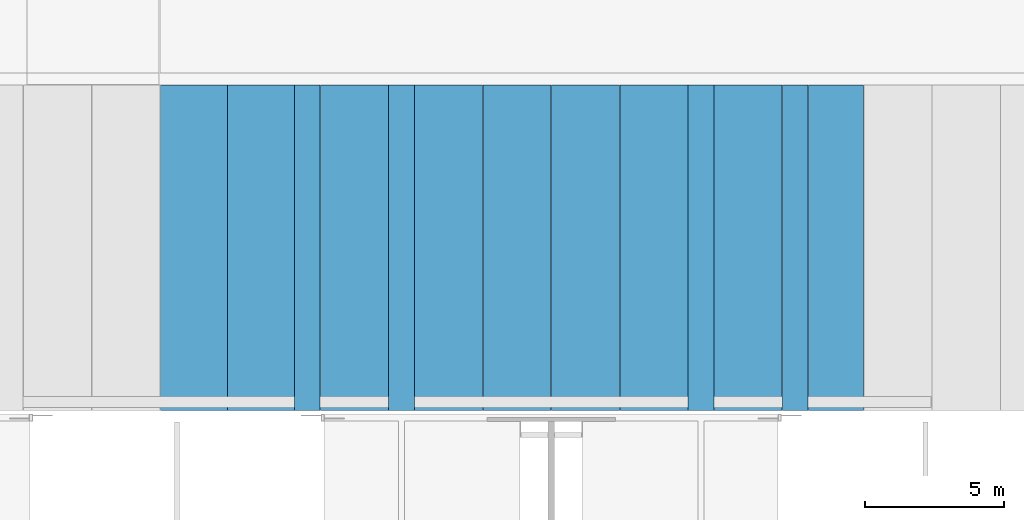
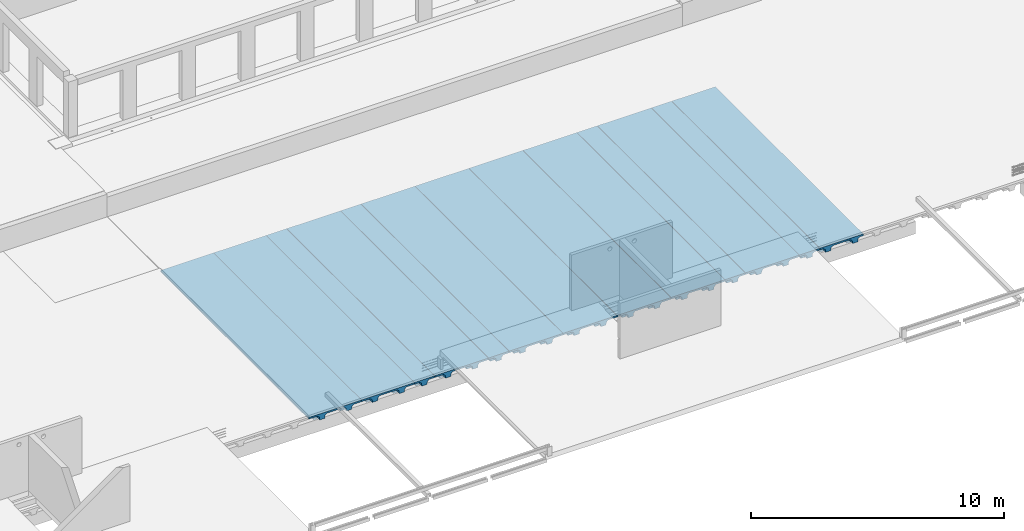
# One storey, part 27 of 36: 13 beams.
"""IFC2X3 building model written with IfcOpenShell, lengths in millimetres."""

from ifc_helpers import new_model, entity, si_unit, converted_unit, derived_unit, direction, frame, origin, place, context, subcontext, project, spatial, faceted_brep, material, type_object, element, save


model = new_model("IFC2X3")

# Units and contexts
model_context = context("Model", 3, precision=0.01, world=origin(), true_north=direction((6.12303176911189e-17, 1.0)))
body_context = subcontext(model_context, "Body", "Model", "MODEL_VIEW")
ifc_project = project(units=[si_unit("LENGTHUNIT", "METRE", prefix="MILLI"), si_unit("AREAUNIT", "SQUARE_METRE"), si_unit("VOLUMEUNIT", "CUBIC_METRE"), converted_unit("PLANEANGLEUNIT", "DEGREE", entity("IfcRatioMeasure", 0.0174532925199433), si_unit("PLANEANGLEUNIT", "RADIAN"), dimensions=[0, 0, 0, 0, 0, 0, 0]), si_unit("MASSUNIT", "GRAM", prefix="KILO"), derived_unit("MASSDENSITYUNIT", [(si_unit("MASSUNIT", "GRAM", prefix="KILO"), 1), (si_unit("LENGTHUNIT", "METRE"), -3)]), si_unit("TIMEUNIT", "SECOND"), si_unit("FREQUENCYUNIT", "HERTZ"), si_unit("THERMODYNAMICTEMPERATUREUNIT", "DEGREE_CELSIUS"), derived_unit("THERMALTRANSMITTANCEUNIT", [(si_unit("MASSUNIT", "GRAM", prefix="KILO"), 1), (si_unit("THERMODYNAMICTEMPERATUREUNIT", "KELVIN"), -1), (si_unit("TIMEUNIT", "SECOND"), -3)]), derived_unit("VOLUMETRICFLOWRATEUNIT", [(si_unit("LENGTHUNIT", "METRE"), 3), (si_unit("TIMEUNIT", "SECOND"), -1)]), si_unit("ELECTRICCURRENTUNIT", "AMPERE"), si_unit("ELECTRICVOLTAGEUNIT", "VOLT"), si_unit("POWERUNIT", "WATT"), si_unit("FORCEUNIT", "NEWTON", prefix="KILO"), si_unit("ILLUMINANCEUNIT", "LUX"), si_unit("LUMINOUSFLUXUNIT", "LUMEN"), si_unit("LUMINOUSINTENSITYUNIT", "CANDELA"), derived_unit("USERDEFINED", [(si_unit("MASSUNIT", "GRAM", prefix="KILO"), -1), (si_unit("LENGTHUNIT", "METRE"), -2), (si_unit("TIMEUNIT", "SECOND"), 3), (si_unit("LUMINOUSFLUXUNIT", "LUMEN"), 1)]), derived_unit("LINEARVELOCITYUNIT", [(si_unit("LENGTHUNIT", "METRE"), 1), (si_unit("TIMEUNIT", "SECOND"), -1)]), si_unit("PRESSUREUNIT", "PASCAL"), derived_unit("USERDEFINED", [(si_unit("LENGTHUNIT", "METRE"), -2), (si_unit("MASSUNIT", "GRAM", prefix="KILO"), 1), (si_unit("TIMEUNIT", "SECOND"), -2)])], contexts=[model_context])

# Site, building, storey
site_placement = place(None, origin())
site = spatial("IfcSite", under=ifc_project, at=site_placement, Name="Default", CompositionType="ELEMENT")
building_placement = place(site_placement, origin())
building = spatial("IfcBuilding", under=site, at=building_placement, Name="niet gebruiken", CompositionType="ELEMENT")
storey_placement = place(building_placement, frame((0.0, 0.0, 12600.0)))
storey = spatial("IfcBuildingStorey", under=building, at=storey_placement, Name="04 vierde verdieping", CompositionType="ELEMENT", Elevation=12600.0)

# Beams
ifc_material = material(Name="NLRS_f2_beton prefab")
beam_type_1 = type_object("IfcBeamType", Name="NLRS_28.11_SF_WPB_tt-plaatvloer Holcon 102B_gen:TT-plaat, b=2460", PredefinedType="BEAM")
beam_1_placement = place(storey_placement, frame((46373.2441956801, 8896.0, -1970.0), z_axis=(0.0, 0.0, 1.0), x_axis=(0.0, -1.0, 0.0)))
element("IfcBeam", 1, at=beam_1_placement, inside=storey, type_object=beam_type_1, material=ifc_material, Name="NLRS_28.11_SF_WPB_tt-plaatvloer Holcon 102B_gen:TT-plaat, b=2460", ObjectType="NLRS_28.11_SF_WPB_tt-plaatvloer Holcon 102B_gen:TT-plaat, b=2460", context=body_context, shape_type="Brep", body=[
    faceted_brep([(-11730.0, 0.0, 610.0), (-11730.0, 0.0, 529.999995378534), (0.0, 0.0, 529.999995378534), (0.0, 0.0, 610.0), (-520.0, 733.513622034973, 320.0), (-520.0, 493.468888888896, 320.0), (-520.0, 518.500000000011, 0.0), (-520.0, 708.482510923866, 0.0), (-11480.0, 501.291111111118, 220.0), (-11480.0, 725.691399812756, 220.0), (-11480.0, 708.482510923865, 0.0), (-11480.0, 518.50000000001, 0.0), (-11730.0, 744.000076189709, 454.059783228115), (-11730.0, 819.940288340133, 529.999995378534), (0.0, 819.940288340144, 529.999995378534), (0.0, 744.000076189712, 454.059783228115), (-11730.0, 1971.01904939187, 454.078756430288), (-11730.0, 2046.94028834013, 529.999995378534), (0.0, 2046.94028834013, 529.999995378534), (0.0, 1971.01904939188, 454.078756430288), (-11730.0, 1634.05971165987, 529.999995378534), (-11730.0, 1709.99992381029, 454.059783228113), (0.0, 1709.9999238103, 454.059783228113), (0.0, 1634.05971165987, 529.999995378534), (-11730.0, 2454.0, 610.0), (-11730.0, 2454.0, 529.999995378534), (-11730.0, 1952.70888888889, 220.0), (-11730.0, 1728.30860018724, 220.0), (-11730.0, 725.691399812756, 220.0), (-11730.0, 501.291111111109, 220.0), (-11730.0, 482.980950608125, 454.078756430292), (-11730.0, 407.059711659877, 529.999995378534), (0.0, 407.05971165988, 529.999995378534), (0.0, 482.980950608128, 454.078756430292), (0.0, 493.468888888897, 320.0), (0.0, 733.513622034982, 320.0), (0.0, 1720.48637796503, 320.0), (0.0, 1960.53111111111, 320.0), (0.0, 2454.0, 529.999995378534), (0.0, 2454.0, 610.0), (-520.0, 1935.5, 0.0), (-520.0, 1745.51748907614, 0.0), (-11480.0, 1745.51748907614, 0.0), (-11480.0, 1935.5, 0.0), (-520.0, 1960.53111111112, 320.0), (-11480.0, 1952.70888888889, 220.0), (-11480.0, 1728.30860018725, 220.0), (-520.0, 1720.48637796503, 320.0)], [[[0, 1, 2, 3]], [[4, 5, 6, 7]], [[8, 9, 10, 11]], [[12, 13, 14, 15]], [[16, 17, 18, 19]], [[20, 21, 22, 23]], [[0, 24, 25, 17, 16, 26, 27, 21, 20, 13, 12, 28, 29, 30, 31, 1]], [[3, 2, 32, 33, 34, 35, 15, 14, 23, 22, 36, 37, 19, 18, 38, 39]], [[1, 31, 32, 2]], [[24, 0, 3, 39]], [[25, 24, 39, 38]], [[17, 25, 38, 18]], [[13, 20, 23, 14]], [[40, 41, 42, 43]], [[16, 19, 37, 44, 40, 43, 45, 26]], [[22, 21, 27, 46, 42, 41, 47, 36]], [[12, 15, 35, 4, 7, 10, 9, 28]], [[7, 6, 11, 10]], [[33, 30, 29, 8, 11, 6, 5, 34]], [[5, 4, 35, 34]], [[9, 8, 29, 28]], [[31, 30, 33, 32]], [[46, 45, 43, 42]], [[47, 44, 37, 36]], [[45, 46, 27, 26]], [[44, 47, 41, 40]]]),
])
beam_2_placement = place(storey_placement, frame((42972.7636920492, 8896.0, -1970.0), z_axis=(0.0, 0.0, 1.0), x_axis=(0.0, -1.0, 0.0)))
element("IfcBeam", 2, at=beam_2_placement, inside=storey, type_object=beam_type_1, material=ifc_material, Name="NLRS_28.11_SF_WPB_tt-plaatvloer Holcon 102B_gen:TT-plaat, b=2460", ObjectType="NLRS_28.11_SF_WPB_tt-plaatvloer Holcon 102B_gen:TT-plaat, b=2460", context=body_context, shape_type="Brep", body=[
    faceted_brep([(-11730.0, 0.0, 610.0), (-11730.0, 0.0, 529.999995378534), (0.0, 0.0, 529.999995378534), (0.0, 0.0, 610.0), (-520.0, 733.513622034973, 320.0), (-520.0, 493.468888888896, 320.0), (-520.0, 518.500000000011, 0.0), (-520.0, 708.482510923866, 0.0), (-11480.0, 501.291111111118, 220.0), (-11480.0, 725.691399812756, 220.0), (-11480.0, 708.482510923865, 0.0), (-11480.0, 518.50000000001, 0.0), (-11730.0, 744.000076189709, 454.059783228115), (-11730.0, 819.940288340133, 529.999995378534), (0.0, 819.940288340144, 529.999995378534), (0.0, 744.000076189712, 454.059783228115), (-11730.0, 1971.01904939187, 454.078756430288), (-11730.0, 2046.94028834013, 529.999995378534), (0.0, 2046.94028834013, 529.999995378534), (0.0, 1971.01904939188, 454.078756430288), (-11730.0, 1634.05971165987, 529.999995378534), (-11730.0, 1709.99992381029, 454.059783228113), (0.0, 1709.9999238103, 454.059783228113), (0.0, 1634.05971165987, 529.999995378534), (-11730.0, 2454.0, 610.0), (-11730.0, 2454.0, 529.999995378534), (-11730.0, 1952.70888888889, 220.0), (-11730.0, 1728.30860018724, 220.0), (-11730.0, 725.691399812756, 220.0), (-11730.0, 501.291111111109, 220.0), (-11730.0, 482.980950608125, 454.078756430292), (-11730.0, 407.059711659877, 529.999995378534), (0.0, 407.05971165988, 529.999995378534), (0.0, 482.980950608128, 454.078756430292), (0.0, 493.468888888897, 320.0), (0.0, 733.513622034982, 320.0), (0.0, 1720.48637796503, 320.0), (0.0, 1960.53111111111, 320.0), (0.0, 2454.0, 529.999995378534), (0.0, 2454.0, 610.0), (-520.0, 1935.5, 0.0), (-520.0, 1745.51748907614, 0.0), (-11480.0, 1745.51748907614, 0.0), (-11480.0, 1935.5, 0.0), (-520.0, 1960.53111111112, 320.0), (-11480.0, 1952.70888888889, 220.0), (-11480.0, 1728.30860018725, 220.0), (-520.0, 1720.48637796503, 320.0)], [[[0, 1, 2, 3]], [[4, 5, 6, 7]], [[8, 9, 10, 11]], [[12, 13, 14, 15]], [[16, 17, 18, 19]], [[20, 21, 22, 23]], [[0, 24, 25, 17, 16, 26, 27, 21, 20, 13, 12, 28, 29, 30, 31, 1]], [[3, 2, 32, 33, 34, 35, 15, 14, 23, 22, 36, 37, 19, 18, 38, 39]], [[1, 31, 32, 2]], [[24, 0, 3, 39]], [[25, 24, 39, 38]], [[17, 25, 38, 18]], [[13, 20, 23, 14]], [[40, 41, 42, 43]], [[16, 19, 37, 44, 40, 43, 45, 26]], [[22, 21, 27, 46, 42, 41, 47, 36]], [[12, 15, 35, 4, 7, 10, 9, 28]], [[7, 6, 11, 10]], [[33, 30, 29, 8, 11, 6, 5, 34]], [[5, 4, 35, 34]], [[9, 8, 29, 28]], [[31, 30, 33, 32]], [[44, 47, 41, 40]], [[46, 45, 43, 42]], [[47, 44, 37, 36]], [[45, 46, 27, 26]]]),
])
beam_3_placement = place(storey_placement, frame((40505.4855962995, 8896.0, -1970.0), z_axis=(0.0, 0.0, 1.0), x_axis=(0.0, -1.0, 0.0)))
element("IfcBeam", 3, at=beam_3_placement, inside=storey, type_object=beam_type_1, material=ifc_material, Name="NLRS_28.11_SF_WPB_tt-plaatvloer Holcon 102B_gen:TT-plaat, b=2460", ObjectType="NLRS_28.11_SF_WPB_tt-plaatvloer Holcon 102B_gen:TT-plaat, b=2460", context=body_context, shape_type="Brep", body=[
    faceted_brep([(-11730.0, 0.0, 610.0), (-11730.0, 0.0, 529.999995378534), (0.0, 0.0, 529.999995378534), (0.0, 0.0, 610.0), (-520.0, 733.513622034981, 320.0), (-520.0, 493.468888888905, 320.0), (-520.0, 518.500000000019, 0.0), (-520.0, 708.482510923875, 0.0), (-11480.0, 501.291111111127, 220.0), (-11480.0, 725.691399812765, 220.0), (-11480.0, 708.482510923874, 0.0), (-11480.0, 518.500000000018, 0.0), (-11730.0, 744.000076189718, 454.059783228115), (-11730.0, 819.940288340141, 529.999995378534), (0.0, 819.940288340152, 529.999995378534), (0.0, 744.000076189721, 454.059783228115), (-11730.0, 1971.01904939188, 454.078756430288), (-11730.0, 2046.94028834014, 529.999995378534), (0.0, 2046.94028834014, 529.999995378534), (0.0, 1971.01904939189, 454.078756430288), (-11730.0, 1634.05971165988, 529.999995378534), (-11730.0, 1709.9999238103, 454.059783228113), (0.0, 1709.99992381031, 454.059783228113), (0.0, 1634.05971165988, 529.999995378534), (-11730.0, 2454.0, 610.0), (-11730.0, 2454.0, 529.999995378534), (-11730.0, 1952.7088888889, 220.0), (-11730.0, 1728.30860018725, 220.0), (-11730.0, 725.691399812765, 220.0), (-11730.0, 501.291111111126, 220.0), (-11730.0, 482.980950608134, 454.078756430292), (-11730.0, 407.059711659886, 529.999995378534), (0.0, 407.059711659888, 529.999995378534), (0.0, 482.980950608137, 454.078756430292), (0.0, 493.468888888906, 320.0), (0.0, 733.513622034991, 320.0), (0.0, 1720.48637796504, 320.0), (0.0, 1960.53111111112, 320.0), (0.0, 2454.0, 529.999995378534), (0.0, 2454.0, 610.0), (-520.0, 1935.50000000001, 0.0), (-520.0, 1745.51748907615, 0.0), (-11480.0, 1745.51748907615, 0.0), (-11480.0, 1935.50000000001, 0.0), (-520.0, 1960.53111111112, 320.0), (-11480.0, 1952.7088888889, 220.0), (-11480.0, 1728.30860018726, 220.0), (-520.0, 1720.48637796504, 320.0)], [[[0, 1, 2, 3]], [[4, 5, 6, 7]], [[8, 9, 10, 11]], [[12, 13, 14, 15]], [[16, 17, 18, 19]], [[20, 21, 22, 23]], [[0, 24, 25, 17, 16, 26, 27, 21, 20, 13, 12, 28, 29, 30, 31, 1]], [[3, 2, 32, 33, 34, 35, 15, 14, 23, 22, 36, 37, 19, 18, 38, 39]], [[1, 31, 32, 2]], [[24, 0, 3, 39]], [[25, 24, 39, 38]], [[17, 25, 38, 18]], [[13, 20, 23, 14]], [[40, 41, 42, 43]], [[16, 19, 37, 44, 40, 43, 45, 26]], [[22, 21, 27, 46, 42, 41, 47, 36]], [[12, 15, 35, 4, 7, 10, 9, 28]], [[7, 6, 11, 10]], [[33, 30, 29, 8, 11, 6, 5, 34]], [[5, 4, 35, 34]], [[9, 8, 29, 28]], [[31, 30, 33, 32]], [[45, 46, 27, 26]], [[47, 44, 37, 36]], [[46, 45, 43, 42]], [[44, 47, 41, 40]]]),
])
beam_4_placement = place(storey_placement, frame((38039.6976948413, 8896.0, -1970.0), z_axis=(0.0, 0.0, 1.0), x_axis=(0.0, -1.0, 0.0)))
element("IfcBeam", 4, at=beam_4_placement, inside=storey, type_object=beam_type_1, material=ifc_material, Name="NLRS_28.11_SF_WPB_tt-plaatvloer Holcon 102B_gen:TT-plaat, b=2460", ObjectType="NLRS_28.11_SF_WPB_tt-plaatvloer Holcon 102B_gen:TT-plaat, b=2460", context=body_context, shape_type="Brep", body=[
    faceted_brep([(-11730.0, 0.0, 610.0), (-11730.0, 0.0, 529.999995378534), (0.0, 0.0, 529.999995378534), (0.0, 0.0, 610.0), (-520.0, 733.513622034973, 320.0), (-520.0, 493.468888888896, 320.0), (-520.0, 518.500000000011, 0.0), (-520.0, 708.482510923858, 0.0), (-11480.0, 501.29111111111, 220.0), (-11480.0, 725.691399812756, 220.0), (-11480.0, 708.482510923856, 0.0), (-11480.0, 518.50000000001, 0.0), (-11730.0, 744.000076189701, 454.059783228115), (-11730.0, 819.940288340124, 529.999995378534), (0.0, 819.940288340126, 529.999995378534), (0.0, 744.000076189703, 454.059783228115), (-11730.0, 1971.01904939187, 454.078756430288), (-11730.0, 2046.94028834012, 529.999995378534), (0.0, 2046.94028834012, 529.999995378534), (0.0, 1971.01904939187, 454.078756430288), (-11730.0, 1634.05971165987, 529.999995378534), (-11730.0, 1709.99992381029, 454.059783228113), (0.0, 1709.99992381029, 454.059783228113), (0.0, 1634.05971165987, 529.999995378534), (-11730.0, 2454.0, 610.0), (-11730.0, 2454.0, 529.999995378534), (-11730.0, 1952.70888888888, 220.0), (-11730.0, 1728.30860018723, 220.0), (-11730.0, 725.691399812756, 220.0), (-11730.0, 501.291111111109, 220.0), (-11730.0, 482.980950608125, 454.078756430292), (-11730.0, 407.059711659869, 529.999995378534), (0.0, 407.059711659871, 529.999995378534), (0.0, 482.980950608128, 454.078756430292), (0.0, 493.468888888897, 320.0), (0.0, 733.513622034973, 320.0), (0.0, 1720.48637796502, 320.0), (0.0, 1960.5311111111, 320.0), (0.0, 2454.0, 529.999995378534), (0.0, 2454.0, 610.0), (-520.0, 1935.5, 0.0), (-520.0, 1745.51748907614, 0.0), (-11480.0, 1745.51748907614, 0.0), (-11480.0, 1935.5, 0.0), (-520.0, 1960.53111111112, 320.0), (-11480.0, 1952.70888888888, 220.0), (-11480.0, 1728.30860018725, 220.0), (-520.0, 1720.48637796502, 320.0)], [[[0, 1, 2, 3]], [[4, 5, 6, 7]], [[8, 9, 10, 11]], [[12, 13, 14, 15]], [[16, 17, 18, 19]], [[20, 21, 22, 23]], [[0, 24, 25, 17, 16, 26, 27, 21, 20, 13, 12, 28, 29, 30, 31, 1]], [[3, 2, 32, 33, 34, 35, 15, 14, 23, 22, 36, 37, 19, 18, 38, 39]], [[1, 31, 32, 2]], [[24, 0, 3, 39]], [[25, 24, 39, 38]], [[17, 25, 38, 18]], [[13, 20, 23, 14]], [[40, 41, 42, 43]], [[16, 19, 37, 44, 40, 43, 45, 26]], [[22, 21, 27, 46, 42, 41, 47, 36]], [[12, 15, 35, 4, 7, 10, 9, 28]], [[7, 6, 11, 10]], [[33, 30, 29, 8, 11, 6, 5, 34]], [[5, 4, 35, 34]], [[9, 8, 29, 28]], [[31, 30, 33, 32]], [[45, 46, 27, 26]], [[44, 47, 41, 40]], [[46, 45, 43, 42]], [[47, 44, 37, 36]]]),
])
beam_5_placement = place(storey_placement, frame((35573.2622926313, 8896.0, -1970.0), z_axis=(0.0, 0.0, 1.0), x_axis=(0.0, -1.0, 0.0)))
element("IfcBeam", 5, at=beam_5_placement, inside=storey, type_object=beam_type_1, material=ifc_material, Name="NLRS_28.11_SF_WPB_tt-plaatvloer Holcon 102B_gen:TT-plaat, b=2460", ObjectType="NLRS_28.11_SF_WPB_tt-plaatvloer Holcon 102B_gen:TT-plaat, b=2460", context=body_context, shape_type="Brep", body=[
    faceted_brep([(-11730.0, 0.0, 610.0), (-11730.0, 0.0, 529.999995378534), (0.0, 0.0, 529.999995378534), (0.0, 0.0, 610.0), (-520.0, 733.513622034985, 320.0), (-520.0, 493.468888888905, 320.0), (-520.0, 518.500000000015, 0.0), (-520.0, 708.482510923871, 0.0), (-11480.0, 501.291111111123, 220.0), (-11480.0, 725.691399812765, 220.0), (-11480.0, 708.482510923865, 0.0), (-11480.0, 518.500000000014, 0.0), (-11730.0, 744.000076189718, 454.059783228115), (-11730.0, 819.940288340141, 529.999995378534), (0.0, 819.940288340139, 529.999995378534), (0.0, 744.000076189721, 454.059783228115), (-11730.0, 1971.01904939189, 454.078756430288), (-11730.0, 2046.94028834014, 529.999995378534), (0.0, 2046.94028834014, 529.999995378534), (0.0, 1971.01904939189, 454.078756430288), (-11730.0, 1634.05971165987, 529.999995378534), (-11730.0, 1709.9999238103, 454.059783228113), (0.0, 1709.9999238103, 454.059783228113), (0.0, 1634.05971165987, 529.999995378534), (-11730.0, 2454.0, 610.0), (-11730.0, 2454.0, 529.999995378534), (-11730.0, 1952.7088888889, 220.0), (-11730.0, 1728.30860018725, 220.0), (-11730.0, 725.691399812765, 220.0), (-11730.0, 501.291111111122, 220.0), (-11730.0, 482.980950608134, 454.078756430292), (-11730.0, 407.059711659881, 529.999995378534), (0.0, 407.059711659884, 529.999995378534), (0.0, 482.980950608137, 454.078756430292), (0.0, 493.468888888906, 320.0), (0.0, 733.513622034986, 320.0), (0.0, 1720.48637796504, 320.0), (0.0, 1960.53111111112, 320.0), (0.0, 2454.0, 529.999995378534), (0.0, 2454.0, 610.0), (-520.0, 1935.5, 0.0), (-520.0, 1745.51748907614, 0.0), (-11480.0, 1745.51748907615, 0.0), (-11480.0, 1935.5, 0.0), (-520.0, 1960.53111111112, 320.0), (-11480.0, 1952.7088888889, 220.0), (-11480.0, 1728.30860018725, 220.0), (-520.0, 1720.48637796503, 320.0)], [[[0, 1, 2, 3]], [[4, 5, 6, 7]], [[8, 9, 10, 11]], [[12, 13, 14, 15]], [[16, 17, 18, 19]], [[20, 21, 22, 23]], [[0, 24, 25, 17, 16, 26, 27, 21, 20, 13, 12, 28, 29, 30, 31, 1]], [[3, 2, 32, 33, 34, 35, 15, 14, 23, 22, 36, 37, 19, 18, 38, 39]], [[1, 31, 32, 2]], [[24, 0, 3, 39]], [[25, 24, 39, 38]], [[17, 25, 38, 18]], [[13, 20, 23, 14]], [[40, 41, 42, 43]], [[16, 19, 37, 44, 40, 43, 45, 26]], [[22, 21, 27, 46, 42, 41, 47, 36]], [[12, 15, 35, 4, 7, 10, 9, 28]], [[7, 6, 11, 10]], [[33, 30, 29, 8, 11, 6, 5, 34]], [[5, 4, 35, 34]], [[9, 8, 29, 28]], [[31, 30, 33, 32]], [[44, 47, 41, 40]], [[46, 45, 43, 42]], [[47, 44, 37, 36]], [[45, 46, 27, 26]]]),
])
beam_6_placement = place(storey_placement, frame((32172.7964216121, 8896.0, -1970.0), z_axis=(0.0, 0.0, 1.0), x_axis=(0.0, -1.0, 0.0)))
element("IfcBeam", 6, at=beam_6_placement, inside=storey, type_object=beam_type_1, material=ifc_material, Name="NLRS_28.11_SF_WPB_tt-plaatvloer Holcon 102B_gen:TT-plaat, b=2460", ObjectType="NLRS_28.11_SF_WPB_tt-plaatvloer Holcon 102B_gen:TT-plaat, b=2460", context=body_context, shape_type="Brep", body=[
    faceted_brep([(-11730.0, 0.0, 610.0), (-11730.0, 0.0, 529.999995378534), (0.0, 0.0, 529.999995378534), (0.0, 0.0, 610.0), (-520.0, 733.513622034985, 320.0), (-520.0, 493.468888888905, 320.0), (-520.0, 518.500000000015, 0.0), (-520.0, 708.482510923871, 0.0), (-11480.0, 501.291111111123, 220.0), (-11480.0, 725.691399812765, 220.0), (-11480.0, 708.482510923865, 0.0), (-11480.0, 518.500000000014, 0.0), (-11730.0, 744.000076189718, 454.059783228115), (-11730.0, 819.940288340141, 529.999995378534), (0.0, 819.940288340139, 529.999995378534), (0.0, 744.000076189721, 454.059783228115), (-11730.0, 1971.01904939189, 454.078756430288), (-11730.0, 2046.94028834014, 529.999995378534), (0.0, 2046.94028834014, 529.999995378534), (0.0, 1971.01904939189, 454.078756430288), (-11730.0, 1634.05971165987, 529.999995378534), (-11730.0, 1709.9999238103, 454.059783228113), (0.0, 1709.9999238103, 454.059783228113), (0.0, 1634.05971165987, 529.999995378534), (-11730.0, 2454.0, 610.0), (-11730.0, 2454.0, 529.999995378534), (-11730.0, 1952.7088888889, 220.0), (-11730.0, 1728.30860018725, 220.0), (-11730.0, 725.691399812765, 220.0), (-11730.0, 501.291111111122, 220.0), (-11730.0, 482.980950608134, 454.078756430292), (-11730.0, 407.059711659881, 529.999995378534), (0.0, 407.059711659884, 529.999995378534), (0.0, 482.980950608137, 454.078756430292), (0.0, 493.468888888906, 320.0), (0.0, 733.513622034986, 320.0), (0.0, 1720.48637796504, 320.0), (0.0, 1960.53111111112, 320.0), (0.0, 2454.0, 529.999995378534), (0.0, 2454.0, 610.0), (-520.0, 1935.5, 0.0), (-520.0, 1745.51748907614, 0.0), (-11480.0, 1745.51748907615, 0.0), (-11480.0, 1935.5, 0.0), (-520.0, 1960.53111111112, 320.0), (-11480.0, 1952.7088888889, 220.0), (-11480.0, 1728.30860018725, 220.0), (-520.0, 1720.48637796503, 320.0)], [[[0, 1, 2, 3]], [[4, 5, 6, 7]], [[8, 9, 10, 11]], [[12, 13, 14, 15]], [[16, 17, 18, 19]], [[20, 21, 22, 23]], [[0, 24, 25, 17, 16, 26, 27, 21, 20, 13, 12, 28, 29, 30, 31, 1]], [[3, 2, 32, 33, 34, 35, 15, 14, 23, 22, 36, 37, 19, 18, 38, 39]], [[1, 31, 32, 2]], [[24, 0, 3, 39]], [[25, 24, 39, 38]], [[17, 25, 38, 18]], [[13, 20, 23, 14]], [[40, 41, 42, 43]], [[16, 19, 37, 44, 40, 43, 45, 26]], [[22, 21, 27, 46, 42, 41, 47, 36]], [[12, 15, 35, 4, 7, 10, 9, 28]], [[7, 6, 11, 10]], [[33, 30, 29, 8, 11, 6, 5, 34]], [[5, 4, 35, 34]], [[9, 8, 29, 28]], [[31, 30, 33, 32]], [[44, 47, 41, 40]], [[46, 45, 43, 42]], [[47, 44, 37, 36]], [[45, 46, 27, 26]]]),
])
beam_7_placement = place(storey_placement, frame((28827.0045614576, 8896.0, -1970.0), z_axis=(0.0, 0.0, 1.0), x_axis=(0.0, -1.0, 0.0)))
element("IfcBeam", 7, at=beam_7_placement, inside=storey, type_object=beam_type_1, material=ifc_material, Name="NLRS_28.11_SF_WPB_tt-plaatvloer Holcon 102B_gen:TT-plaat, b=2460", ObjectType="NLRS_28.11_SF_WPB_tt-plaatvloer Holcon 102B_gen:TT-plaat, b=2460", context=body_context, shape_type="Brep", body=[
    faceted_brep([(-11730.0, 0.0, 610.0), (-11730.0, 0.0, 529.999995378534), (0.0, 0.0, 529.999995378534), (0.0, 0.0, 610.0), (-520.0, 733.513622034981, 320.0), (-520.0, 493.4688888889, 320.0), (-520.0, 518.500000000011, 0.0), (-520.0, 708.482510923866, 0.0), (-11480.0, 501.291111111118, 220.0), (-11480.0, 725.691399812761, 220.0), (-11480.0, 708.482510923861, 0.0), (-11480.0, 518.50000000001, 0.0), (-11730.0, 744.000076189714, 454.059783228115), (-11730.0, 819.940288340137, 529.999995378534), (0.0, 819.940288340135, 529.999995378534), (0.0, 744.000076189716, 454.059783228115), (-11730.0, 1971.01904939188, 454.078756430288), (-11730.0, 2046.94028834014, 529.999995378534), (0.0, 2046.94028834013, 529.999995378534), (0.0, 1971.01904939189, 454.078756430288), (-11730.0, 1634.05971165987, 529.999995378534), (-11730.0, 1709.99992381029, 454.059783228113), (0.0, 1709.99992381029, 454.059783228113), (0.0, 1634.05971165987, 529.999995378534), (-11730.0, 2454.0, 610.0), (-11730.0, 2454.0, 529.999995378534), (-11730.0, 1952.70888888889, 220.0), (-11730.0, 1728.30860018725, 220.0), (-11730.0, 725.69139981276, 220.0), (-11730.0, 501.291111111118, 220.0), (-11730.0, 482.98095060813, 454.078756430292), (-11730.0, 407.059711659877, 529.999995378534), (0.0, 407.05971165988, 529.999995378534), (0.0, 482.980950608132, 454.078756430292), (0.0, 493.468888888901, 320.0), (0.0, 733.513622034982, 320.0), (0.0, 1720.48637796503, 320.0), (0.0, 1960.53111111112, 320.0), (0.0, 2454.0, 529.999995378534), (0.0, 2454.0, 610.0), (-520.0, 1935.5, 0.0), (-520.0, 1745.51748907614, 0.0), (-11480.0, 1745.51748907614, 0.0), (-11480.0, 1935.5, 0.0), (-520.0, 1960.53111111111, 320.0), (-11480.0, 1952.70888888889, 220.0), (-11480.0, 1728.30860018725, 220.0), (-520.0, 1720.48637796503, 320.0)], [[[0, 1, 2, 3]], [[4, 5, 6, 7]], [[8, 9, 10, 11]], [[12, 13, 14, 15]], [[16, 17, 18, 19]], [[20, 21, 22, 23]], [[0, 24, 25, 17, 16, 26, 27, 21, 20, 13, 12, 28, 29, 30, 31, 1]], [[3, 2, 32, 33, 34, 35, 15, 14, 23, 22, 36, 37, 19, 18, 38, 39]], [[1, 31, 32, 2]], [[24, 0, 3, 39]], [[25, 24, 39, 38]], [[17, 25, 38, 18]], [[13, 20, 23, 14]], [[40, 41, 42, 43]], [[16, 19, 37, 44, 40, 43, 45, 26]], [[22, 21, 27, 46, 42, 41, 47, 36]], [[12, 15, 35, 4, 7, 10, 9, 28]], [[7, 6, 11, 10]], [[33, 30, 29, 8, 11, 6, 5, 34]], [[5, 4, 35, 34]], [[9, 8, 29, 28]], [[31, 30, 33, 32]], [[44, 47, 41, 40]], [[46, 45, 43, 42]], [[47, 44, 37, 36]], [[45, 46, 27, 26]]]),
])
beam_8_placement = place(storey_placement, frame((26411.7229849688, 8896.0, -1970.0), z_axis=(0.0, 0.0, 1.0), x_axis=(0.0, -1.0, 0.0)))
element("IfcBeam", 8, at=beam_8_placement, inside=storey, type_object=beam_type_1, material=ifc_material, Name="NLRS_28.11_SF_WPB_tt-plaatvloer Holcon 102B_gen:TT-plaat, b=2460", ObjectType="NLRS_28.11_SF_WPB_tt-plaatvloer Holcon 102B_gen:TT-plaat, b=2460", context=body_context, shape_type="Brep", body=[
    faceted_brep([(-11730.0, 0.0, 610.0), (-11730.0, 0.0, 529.999995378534), (0.0, 0.0, 529.999995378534), (0.0, 0.0, 610.0), (-520.0, 733.513622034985, 320.0), (-520.0, 493.468888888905, 320.0), (-520.0, 518.500000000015, 0.0), (-520.0, 708.482510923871, 0.0), (-11480.0, 501.291111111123, 220.0), (-11480.0, 725.691399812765, 220.0), (-11480.0, 708.482510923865, 0.0), (-11480.0, 518.500000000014, 0.0), (-11730.0, 744.000076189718, 454.059783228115), (-11730.0, 819.940288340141, 529.999995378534), (0.0, 819.940288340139, 529.999995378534), (0.0, 744.000076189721, 454.059783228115), (-11730.0, 1971.01904939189, 454.078756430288), (-11730.0, 2046.94028834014, 529.999995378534), (0.0, 2046.94028834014, 529.999995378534), (0.0, 1971.01904939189, 454.078756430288), (-11730.0, 1634.05971165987, 529.999995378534), (-11730.0, 1709.9999238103, 454.059783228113), (0.0, 1709.9999238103, 454.059783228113), (0.0, 1634.05971165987, 529.999995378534), (-11730.0, 2454.0, 610.0), (-11730.0, 2454.0, 529.999995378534), (-11730.0, 1952.7088888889, 220.0), (-11730.0, 1728.30860018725, 220.0), (-11730.0, 725.691399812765, 220.0), (-11730.0, 501.291111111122, 220.0), (-11730.0, 482.980950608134, 454.078756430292), (-11730.0, 407.059711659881, 529.999995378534), (0.0, 407.059711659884, 529.999995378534), (0.0, 482.980950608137, 454.078756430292), (0.0, 493.468888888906, 320.0), (0.0, 733.513622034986, 320.0), (0.0, 1720.48637796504, 320.0), (0.0, 1960.53111111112, 320.0), (0.0, 2454.0, 529.999995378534), (0.0, 2454.0, 610.0), (-520.0, 1935.5, 0.0), (-520.0, 1745.51748907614, 0.0), (-11480.0, 1745.51748907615, 0.0), (-11480.0, 1935.5, 0.0), (-520.0, 1960.53111111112, 320.0), (-11480.0, 1952.7088888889, 220.0), (-11480.0, 1728.30860018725, 220.0), (-520.0, 1720.48637796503, 320.0)], [[[0, 1, 2, 3]], [[4, 5, 6, 7]], [[8, 9, 10, 11]], [[12, 13, 14, 15]], [[16, 17, 18, 19]], [[20, 21, 22, 23]], [[0, 24, 25, 17, 16, 26, 27, 21, 20, 13, 12, 28, 29, 30, 31, 1]], [[3, 2, 32, 33, 34, 35, 15, 14, 23, 22, 36, 37, 19, 18, 38, 39]], [[1, 31, 32, 2]], [[24, 0, 3, 39]], [[25, 24, 39, 38]], [[17, 25, 38, 18]], [[13, 20, 23, 14]], [[40, 41, 42, 43]], [[16, 19, 37, 44, 40, 43, 45, 26]], [[22, 21, 27, 46, 42, 41, 47, 36]], [[12, 15, 35, 4, 7, 10, 9, 28]], [[7, 6, 11, 10]], [[33, 30, 29, 8, 11, 6, 5, 34]], [[5, 4, 35, 34]], [[9, 8, 29, 28]], [[31, 30, 33, 32]], [[44, 47, 41, 40]], [[46, 45, 43, 42]], [[47, 44, 37, 36]], [[45, 46, 27, 26]]]),
])
beam_type_2 = type_object("IfcBeamType", Name="NLRS_28.11_SF_WPB_tt-plaatvloer Holcon 102B_gen:TT-plaat, b=1990", PredefinedType="BEAM")
beam_9_placement = place(storey_placement, frame((49774.3850075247, 8896.0, -1970.0), z_axis=(0.0, 0.0, 1.0), x_axis=(0.0, -1.0, 0.0)))
element("IfcBeam", 9, at=beam_9_placement, inside=storey, type_object=beam_type_2, material=ifc_material, Name="NLRS_28.11_SF_WPB_tt-plaatvloer Holcon 102B_gen:TT-plaat, b=1990", ObjectType="NLRS_28.11_SF_WPB_tt-plaatvloer Holcon 102B_gen:TT-plaat, b=1990", context=body_context, shape_type="Brep", body=[
    faceted_brep([(-11730.0, 0.0, 610.0), (-11730.0, 1984.0, 610.0), (-11730.0, 1984.0, 529.999995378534), (-11730.0, 1811.94028834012, 529.999995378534), (-11730.0, 1736.01904939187, 454.078756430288), (-11730.0, 1717.70888888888, 220.0), (-11730.0, 1493.30860018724, 220.0), (-11730.0, 1474.99992381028, 454.059783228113), (-11730.0, 1399.05971165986, 529.999995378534), (-11730.0, 584.940288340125, 529.999995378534), (-11730.0, 509.000076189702, 454.059783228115), (-11730.0, 490.691399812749, 220.0), (-11730.0, 266.291111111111, 220.0), (-11730.0, 247.980950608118, 454.078756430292), (-11730.0, 172.05971165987, 529.999995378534), (-11730.0, 0.0, 529.999995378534), (0.0, 0.0, 610.0), (0.0, 0.0, 529.999995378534), (0.0, 172.059711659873, 529.999995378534), (0.0, 247.980950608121, 454.078756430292), (0.0, 258.46888888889, 320.0), (0.0, 498.513622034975, 320.0), (0.0, 509.000076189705, 454.059783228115), (0.0, 584.940288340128, 529.999995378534), (0.0, 1399.05971165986, 529.999995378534), (0.0, 1474.99992381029, 454.059783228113), (0.0, 1485.48637796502, 320.0), (0.0, 1725.5311111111, 320.0), (0.0, 1736.01904939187, 454.078756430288), (0.0, 1811.94028834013, 529.999995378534), (0.0, 1984.0, 529.999995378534), (0.0, 1984.0, 610.0), (-520.0, 1700.49999999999, 0.0), (-520.0, 1510.51748907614, 0.0), (-11480.0, 1510.51748907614, 0.0), (-11480.0, 1700.49999999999, 0.0), (-520.0, 1725.53111111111, 320.0), (-11480.0, 1717.70888888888, 220.0), (-11480.0, 1493.30860018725, 220.0), (-520.0, 1485.48637796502, 320.0), (-520.0, 498.513622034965, 320.0), (-520.0, 473.482510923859, 0.0), (-11480.0, 473.482510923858, 0.0), (-11480.0, 490.691399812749, 220.0), (-520.0, 283.500000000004, 0.0), (-11480.0, 283.500000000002, 0.0), (-11480.0, 266.291111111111, 220.0), (-520.0, 258.468888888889, 320.0)], [[[0, 1, 2, 3, 4, 5, 6, 7, 8, 9, 10, 11, 12, 13, 14, 15]], [[16, 17, 18, 19, 20, 21, 22, 23, 24, 25, 26, 27, 28, 29, 30, 31]], [[15, 14, 18, 17]], [[1, 0, 16, 31]], [[2, 1, 31, 30]], [[3, 2, 30, 29]], [[9, 8, 24, 23]], [[0, 15, 17, 16]], [[32, 33, 34, 35]], [[4, 28, 27, 36, 32, 35, 37, 5]], [[25, 7, 6, 38, 34, 33, 39, 26]], [[10, 22, 21, 40, 41, 42, 43, 11]], [[41, 44, 45, 42]], [[19, 13, 12, 46, 45, 44, 47, 20]], [[47, 40, 21, 20]], [[40, 47, 44, 41]], [[43, 46, 12, 11]], [[46, 43, 42, 45]], [[10, 9, 23, 22]], [[4, 3, 29, 28]], [[8, 7, 25, 24]], [[14, 13, 19, 18]], [[37, 38, 6, 5]], [[38, 37, 35, 34]], [[39, 36, 27, 26]], [[36, 39, 33, 32]]]),
])
beam_type_3 = type_object("IfcBeamType", Name="NLRS_28.11_SF_WPB_tt-plaatvloer Holcon 1 ligger_gen:TT-plaat 1 ligger b=930", PredefinedType="BEAM")
for number, where, z_axis, x_axis in (
    (10, (31236.9141023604, 8896.0, -1970.0), (0.0, 0.0, 1.0), (0.0, -1.0, 0.0)),
    (11, (34638.3391466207, 8896.0, -1970.0), (0.0, 0.0, 1.0), (0.0, -1.0, 0.0)),
):
    element("IfcBeam", number, at=place(storey_placement, frame(where, z_axis=z_axis, x_axis=x_axis)), inside=storey, type_object=beam_type_3, material=ifc_material, Name="NLRS_28.11_SF_WPB_tt-plaatvloer Holcon 1 ligger_gen:TT-plaat 1 ligger b=930", ObjectType="NLRS_28.11_SF_WPB_tt-plaatvloer Holcon 1 ligger_gen:TT-plaat 1 ligger b=930", context=body_context, shape_type="Brep", body=[
        faceted_brep([(-11730.0, 0.0, 610.0), (-11730.0, 924.0, 610.0), (-11730.0, 924.0, 529.999995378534), (-11730.0, 668.440288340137, 529.999995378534), (-11730.0, 592.51904939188, 454.078756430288), (-11730.0, 574.208888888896, 220.0), (-11730.0, 349.808600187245, 220.0), (-11730.0, 331.499923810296, 454.059783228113), (-11730.0, 255.559711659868, 529.999995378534), (-11730.0, 0.0, 529.999995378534), (0.0, 331.499923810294, 454.059783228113), (-11480.0, 349.808600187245, 220.0), (-11480.0, 367.017489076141, 0.0), (-520.0, 367.017489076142, 0.0), (-520.0, 341.986377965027, 320.0), (0.0, 341.986377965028, 320.0), (-11480.0, 574.208888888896, 220.0), (0.0, 592.519049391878, 454.078756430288), (0.0, 582.031111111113, 320.0), (-520.0, 582.031111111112, 320.0), (-520.0, 557.0, 0.0), (-11480.0, 557.0, 0.0), (0.0, 0.0, 610.0), (0.0, 0.0, 529.999995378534), (0.0, 255.559711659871, 529.999995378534), (0.0, 668.440288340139, 529.999995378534), (0.0, 924.0, 529.999995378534), (0.0, 924.0, 610.0)], [[[0, 1, 2, 3, 4, 5, 6, 7, 8, 9]], [[10, 7, 6, 11, 12, 13, 14, 15]], [[16, 11, 6, 5]], [[4, 17, 18, 19, 20, 21, 16, 5]], [[22, 23, 24, 10, 15, 18, 17, 25, 26, 27]], [[1, 0, 22, 27]], [[2, 1, 27, 26]], [[3, 2, 26, 25]], [[9, 8, 24, 23]], [[0, 9, 23, 22]], [[20, 13, 12, 21]], [[14, 19, 18, 15]], [[19, 14, 13, 20]], [[11, 16, 21, 12]], [[4, 3, 25, 17]], [[8, 7, 10, 24]]]),
    ])
beam_10_placement = place(storey_placement, frame((45438.3391466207, 8896.0, -1970.0), z_axis=(0.0, 0.0, 1.0), x_axis=(0.0, -1.0, 0.0)))
element("IfcBeam", 12, at=beam_10_placement, inside=storey, type_object=beam_type_3, material=ifc_material, Name="NLRS_28.11_SF_WPB_tt-plaatvloer Holcon 1 ligger_gen:TT-plaat 1 ligger b=930", ObjectType="NLRS_28.11_SF_WPB_tt-plaatvloer Holcon 1 ligger_gen:TT-plaat 1 ligger b=930", context=body_context, shape_type="Brep", body=[
    faceted_brep([(-11730.0, 0.0, 610.0), (-11730.0, 924.0, 610.0), (-11730.0, 924.0, 529.999995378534), (-11730.0, 668.440288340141, 529.999995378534), (-11730.0, 592.519049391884, 454.078756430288), (-11730.0, 574.2088888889, 220.0), (-11730.0, 349.808600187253, 220.0), (-11730.0, 331.4999238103, 454.059783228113), (-11730.0, 255.559711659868, 529.999995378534), (-11730.0, 0.0, 529.999995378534), (0.0, 331.499923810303, 454.059783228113), (-11480.0, 349.808600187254, 220.0), (-11480.0, 367.017489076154, 0.0), (-520.0, 367.017489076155, 0.0), (-520.0, 341.98637796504, 320.0), (0.0, 341.986377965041, 320.0), (-11480.0, 574.208888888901, 220.0), (0.0, 592.519049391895, 454.078756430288), (0.0, 582.031111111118, 320.0), (-520.0, 582.031111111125, 320.0), (-520.0, 557.0, 0.0), (-11480.0, 557.0, 0.0), (0.0, 0.0, 610.0), (0.0, 0.0, 529.999995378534), (0.0, 255.559711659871, 529.999995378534), (0.0, 668.440288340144, 529.999995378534), (0.0, 924.0, 529.999995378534), (0.0, 924.0, 610.0)], [[[0, 1, 2, 3, 4, 5, 6, 7, 8, 9]], [[10, 7, 6, 11, 12, 13, 14, 15]], [[16, 11, 6, 5]], [[4, 17, 18, 19, 20, 21, 16, 5]], [[22, 23, 24, 10, 15, 18, 17, 25, 26, 27]], [[1, 0, 22, 27]], [[2, 1, 27, 26]], [[3, 2, 26, 25]], [[9, 8, 24, 23]], [[0, 9, 23, 22]], [[20, 13, 12, 21]], [[14, 19, 18, 15]], [[19, 14, 13, 20]], [[11, 16, 21, 12]], [[4, 3, 25, 17]], [[8, 7, 10, 24]]]),
])
beam_11_placement = place(storey_placement, frame((48838.3391466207, 8896.0, -1970.0), z_axis=(0.0, 0.0, 1.0), x_axis=(0.0, -1.0, 0.0)))
element("IfcBeam", 13, at=beam_11_placement, inside=storey, type_object=beam_type_3, material=ifc_material, Name="NLRS_28.11_SF_WPB_tt-plaatvloer Holcon 1 ligger_gen:TT-plaat 1 ligger b=930", ObjectType="NLRS_28.11_SF_WPB_tt-plaatvloer Holcon 1 ligger_gen:TT-plaat 1 ligger b=930", context=body_context, shape_type="Brep", body=[
    faceted_brep([(-11730.0, 0.0, 610.0), (-11730.0, 924.0, 610.0), (-11730.0, 924.0, 529.999995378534), (-11730.0, 668.440288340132, 529.999995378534), (-11730.0, 592.519049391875, 454.078756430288), (-11730.0, 574.208888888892, 220.0), (-11730.0, 349.808600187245, 220.0), (-11730.0, 331.499923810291, 454.059783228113), (-11730.0, 255.55971165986, 529.999995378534), (-11730.0, 0.0, 529.999995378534), (0.0, 331.499923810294, 454.059783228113), (-11480.0, 349.808600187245, 220.0), (-11480.0, 367.017489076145, 0.0), (-520.0, 367.017489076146, 0.0), (-520.0, 341.986377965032, 320.0), (0.0, 341.986377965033, 320.0), (-11480.0, 574.208888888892, 220.0), (0.0, 592.519049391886, 454.078756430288), (0.0, 582.031111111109, 320.0), (-520.0, 582.031111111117, 320.0), (-520.0, 557.0, 0.0), (-11480.0, 557.0, 0.0), (0.0, 0.0, 610.0), (0.0, 0.0, 529.999995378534), (0.0, 255.559711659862, 529.999995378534), (0.0, 668.440288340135, 529.999995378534), (0.0, 924.0, 529.999995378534), (0.0, 924.0, 610.0)], [[[0, 1, 2, 3, 4, 5, 6, 7, 8, 9]], [[10, 7, 6, 11, 12, 13, 14, 15]], [[16, 11, 6, 5]], [[4, 17, 18, 19, 20, 21, 16, 5]], [[22, 23, 24, 10, 15, 18, 17, 25, 26, 27]], [[1, 0, 22, 27]], [[2, 1, 27, 26]], [[3, 2, 26, 25]], [[9, 8, 24, 23]], [[0, 9, 23, 22]], [[20, 13, 12, 21]], [[14, 19, 18, 15]], [[19, 14, 13, 20]], [[11, 16, 21, 12]], [[4, 3, 25, 17]], [[8, 7, 10, 24]]]),
])

save(model, "model.ifc")
